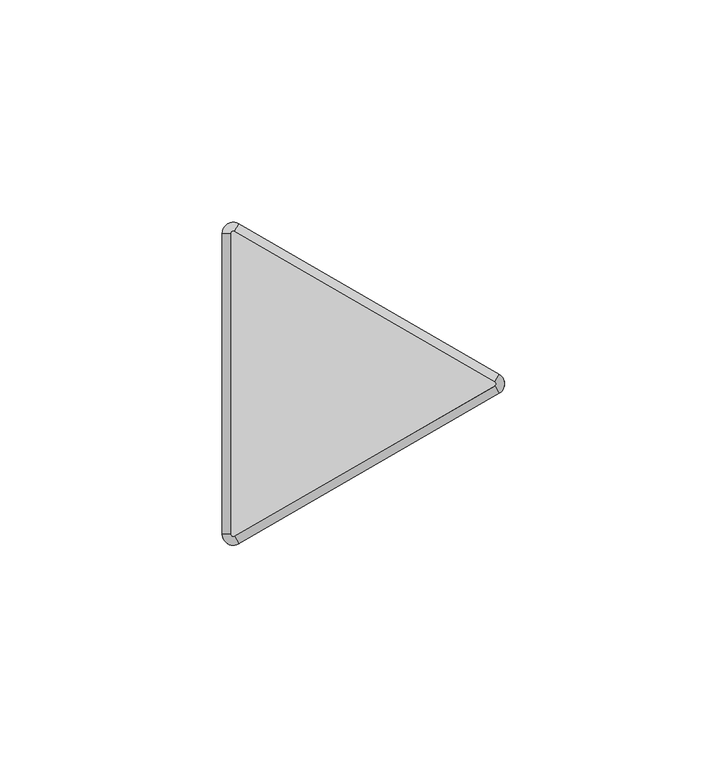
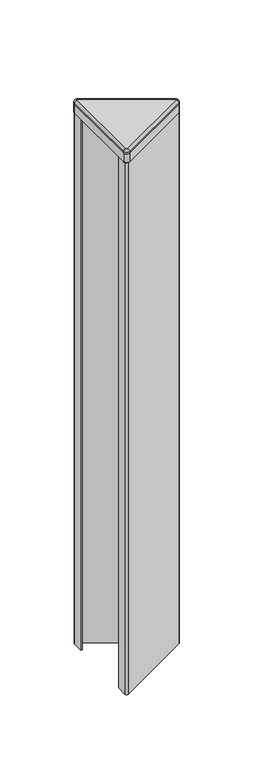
"""IFC4 building model written with IfcOpenShell, lengths in millimetres: furniture geometry, Steelcase - Answer Solution - Panel - 120deg Change-of-Height Trim - Thin : Y Corner - 18H for 66H App."""

from ifc_helpers import new_model, si_unit, point, frame, frame_2d, origin, place, context, project, spatial, polyline, circle_curve, ellipse_curve, trimmed, segment, composite_curve, outline, extrude, source, transform, mapped, element, save
from ifc_brep_helpers import plane_surface, cylinder_surface, revolved_surface, advanced_brep


def furniture_a55f275b(model_context):
    return source(origin(), model_context, "Body", "SolidModel", [
        advanced_brep(
        [(-10.518645, -37.3335529, 1680.8628978), (-14.2052101, -35.2051135, 1680.8628978), (-14.2052101, -35.2051135, 1679.9164663), (-10.518645, -37.3335529, 1679.9164663), (-11.46175, -35.7000471, 1682.75), (-12.319, -35.2051135, 1682.75), (-11.46175, -35.7000471, 1679.9164663), (-12.319, -35.2051135, 1679.9164663), (48.0429908, -3.5229767, 1679.9164663), (48.0429908, -3.5229767, 1680.8628978), (47.0998858, -1.8894709, 1682.75), (47.0998858, -1.8894709, 1679.9164663), (48.0429908, 0.733902, 1680.8628978), (48.0429908, 0.733902, 1679.9164663), (47.0998858, -0.8996038, 1682.75), (47.0998858, -0.8996038, 1679.9164663), (-10.518645, 34.5444782, 1679.9164663), (-14.2052101, 32.4160388, 1679.9164663), (-11.46175, 32.9109723, 1679.9164663), (-12.319, 32.4160388, 1679.9164663), (-10.518645, 34.5444782, 1680.8628978), (-11.46175, 32.9109723, 1682.75), (-14.2052101, 32.4160388, 1680.8628978), (-12.319, 32.4160388, 1682.75)],
        [
            (0, 1, circle_curve(frame((-11.7475, -35.2051135, 1680.8628978), z_axis=(0.0, 0.0, -1.0), x_axis=(-1.0, 0.0, 0.0)), 2.4577101)),
            (1, 2),
            (2, 3, circle_curve(frame((-11.7475, -35.2051135, 1679.9164663), z_axis=(0.0, 0.0, 1.0), x_axis=(-1.0, 0.0, 0.0)), 2.4577101)),
            (3, 0),
            (4, 5, circle_curve(frame((-11.7475, -35.2051135, 1682.75), z_axis=(0.0, 0.0, -1.0), x_axis=(-1.0, 0.0, 0.0)), 0.5715)),
            (5, 1, circle_curve(frame((-12.3181076, -35.2051135, 1680.8628978), z_axis=(0.0, -1.0, 0.0), x_axis=(1.0, 0.0, 0.0)), 1.8871024)),
            (0, 4, circle_curve(frame((-11.4621962, -35.6992743, 1680.8628978), z_axis=(-0.8660254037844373, -0.5000000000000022, 0.0), x_axis=(-0.5000000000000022, 0.8660254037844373, 0.0)), 1.8871024)),
            (6, 7, circle_curve(frame((-11.7475, -35.2051135, 1679.9164663), z_axis=(0.0, 0.0, -1.0), x_axis=(-1.0, 0.0, 0.0)), 0.5715)),
            (7, 5),
            (4, 6),
            (3, 8),
            (8, 9),
            (9, 0),
            (9, 10, circle_curve(frame((47.0994396, -1.8886981, 1680.8628978), z_axis=(-0.8660254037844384, -0.5000000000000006, 0.0), x_axis=(-0.5000000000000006, 0.8660254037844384, 0.0)), 1.8871024)),
            (10, 4),
            (10, 11),
            (11, 6),
            (12, 9, circle_curve(frame((46.8141358, -1.3945374, 1680.8628978), z_axis=(0.0, 0.0, -1.0), x_axis=(0.4999999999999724, -0.8660254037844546, 0.0)), 2.4577101)),
            (8, 13, circle_curve(frame((46.8141358, -1.3945374, 1679.9164663), z_axis=(0.0, 0.0, 1.0), x_axis=(0.4999999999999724, -0.8660254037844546, 0.0)), 2.4577101)),
            (13, 12),
            (14, 10, circle_curve(frame((46.8141358, -1.3945374, 1682.75), z_axis=(0.0, 0.0, -1.0), x_axis=(0.4999999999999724, -0.8660254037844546, 0.0)), 0.5715)),
            (12, 14, circle_curve(frame((47.0994396, -0.9003766, 1680.8628978), z_axis=(0.8660254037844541, -0.49999999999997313, 0.0), x_axis=(-0.49999999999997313, -0.8660254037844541, 0.0)), 1.8871024)),
            (15, 11, circle_curve(frame((46.8141358, -1.3945374, 1679.9164663), z_axis=(0.0, 0.0, -1.0), x_axis=(0.4999999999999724, -0.8660254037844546, 0.0)), 0.5715)),
            (14, 15),
            (16, 13),
            (2, 17),
            (17, 16, circle_curve(frame((-11.7475, 32.4160388, 1679.9164663), z_axis=(0.0, 0.0, -1.0), x_axis=(0.500000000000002, 0.8660254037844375, 0.0)), 2.4577101)),
            (15, 18),
            (18, 19, circle_curve(frame((-11.7475, 32.4160388, 1679.9164663), z_axis=(0.0, 0.0, 1.0), x_axis=(0.500000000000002, 0.8660254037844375, 0.0)), 0.5715)),
            (19, 7),
            (16, 20),
            (20, 12),
            (20, 21, circle_curve(frame((-11.4621962, 32.9101995, 1680.8628978), z_axis=(0.8660254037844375, -0.5000000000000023, 0.0), x_axis=(-0.5000000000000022, -0.8660254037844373, 0.0)), 1.8871024)),
            (21, 14),
            (21, 18),
            (22, 20, circle_curve(frame((-11.7475, 32.4160388, 1680.8628978), z_axis=(0.0, 0.0, -1.0), x_axis=(0.500000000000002, 0.8660254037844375, 0.0)), 2.4577101)),
            (17, 22),
            (23, 21, circle_curve(frame((-11.7475, 32.4160388, 1682.75), z_axis=(0.0, 0.0, -1.0), x_axis=(0.500000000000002, 0.8660254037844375, 0.0)), 0.5715)),
            (22, 23, circle_curve(frame((-12.3181076, 32.4160388, 1680.8628978), z_axis=(0.0, 1.0, 0.0), x_axis=(1.0, 0.0, 0.0)), 1.8871024)),
            (23, 19),
            (1, 22),
            (5, 23),
        ],
        [
            cylinder_surface(frame((-11.7475, -35.2051135, 0.0), z_axis=(0.0, 0.0, 1.0), x_axis=(-1.0, 0.0, 0.0)), 2.4577101),
            revolved_surface(trimmed(ellipse_curve(frame((-12.3181076, -35.2051135, 1680.8628978), z_axis=(0.0, 1.0, 0.0), x_axis=(1.0, 0.0, 0.0)), 1.8871024, 1.8871024), [point((-14.2052101, -35.2051135, 1680.8628978))], [point((-12.319, -35.2051135, 1682.75))], True, "CARTESIAN"), (-11.7475, -35.2051135, 0.0), (0.0, 0.0, 1.0)),
            revolved_surface(polyline([(-12.319, -35.2051135, 1682.75), (-12.319, -35.2051135, 1679.9164663)]), (-11.7475, -35.2051135, 0.0), (0.0, 0.0, 1.0)),
            plane_surface(frame((-10.518645, -37.3335529, 1679.9164663), z_axis=(0.5000000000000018, -0.8660254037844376, 0.0), x_axis=(0.8660254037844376, 0.5000000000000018, 0.0))),
            cylinder_surface(frame((-11.4621962, -35.6992743, 1680.8628978), z_axis=(-0.8660254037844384, -0.5000000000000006, 0.0), x_axis=(-0.5000000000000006, 0.8660254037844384, 0.0)), 1.8871024),
            plane_surface(frame((-11.46175, -35.7000471, 1682.75), z_axis=(-0.4999999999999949, 0.8660254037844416, 0.0), x_axis=(0.8660254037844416, 0.4999999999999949, 0.0))),
            cylinder_surface(frame((46.8141358, -1.3945374, 0.0), z_axis=(0.0, 0.0, 1.0), x_axis=(0.4999999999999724, -0.8660254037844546, 0.0)), 2.4577101),
            revolved_surface(trimmed(ellipse_curve(frame((47.0994396, -1.8886981, 1680.8628978), z_axis=(-0.8660254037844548, -0.499999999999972, 0.0), x_axis=(-0.499999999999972, 0.8660254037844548, 0.0)), 1.8871024, 1.8871024), [point((48.0429908, -3.5229767, 1680.8628978))], [point((47.0998858, -1.8894709, 1682.75))], True, "CARTESIAN"), (46.8141358, -1.3945374, 0.0), (0.0, 0.0, 1.0)),
            revolved_surface(polyline([(47.09988579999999, -1.8894709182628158, 1682.75), (47.09988579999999, -1.8894709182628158, 1679.9164663)]), (46.8141358, -1.3945374, 0.0), (0.0, 0.0, 1.0)),
            plane_surface(frame((47.0998858, -0.8996038, 1679.9164663), z_axis=(0.0, 0.0, -1.0), x_axis=(-0.8660254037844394, 0.4999999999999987, 0.0))),
            plane_surface(frame((48.0429908, 0.733902, 1679.9164663), z_axis=(0.5000000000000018, 0.8660254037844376, 0.0), x_axis=(-0.8660254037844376, 0.5000000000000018, 0.0))),
            cylinder_surface(frame((47.0994396, -0.9003766, 1680.8628978), z_axis=(0.8660254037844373, -0.5000000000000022, 0.0), x_axis=(-0.5000000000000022, -0.8660254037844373, 0.0)), 1.8871024),
            plane_surface(frame((47.0998858, -0.8996038, 1682.75), z_axis=(-0.4999999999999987, -0.8660254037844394, 0.0), x_axis=(-0.8660254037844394, 0.4999999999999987, 0.0))),
            cylinder_surface(frame((-11.7475, 32.4160388, 0.0), z_axis=(0.0, 0.0, 1.0), x_axis=(0.500000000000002, 0.8660254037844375, 0.0)), 2.4577101),
            revolved_surface(trimmed(ellipse_curve(frame((-11.4621962, 32.9101995, 1680.8628978), z_axis=(0.866025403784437, -0.5000000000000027, 0.0), x_axis=(-0.5000000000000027, -0.866025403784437, 0.0)), 1.8871024, 1.8871024), [point((-10.518645, 34.5444782, 1680.8628978))], [point((-11.46175, 32.9109723, 1682.75))], True, "CARTESIAN"), (-11.7475, 32.4160388, 0.0), (0.0, 0.0, 1.0)),
            revolved_surface(polyline([(-11.461749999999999, 32.91097231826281, 1682.75), (-11.461749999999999, 32.91097231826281, 1679.9164663)]), (-11.7475, 32.4160388, 0.0), (0.0, 0.0, 1.0)),
            plane_surface(frame((-14.2052101, 32.4160388, 1679.9164663), z_axis=(-1.0, 0.0, 0.0), x_axis=(0.0, -1.0, 0.0))),
            cylinder_surface(frame((-12.3181076, 32.4160388, 1680.8628978), z_axis=(0.0, 1.0, 0.0), x_axis=(1.0, 0.0, 0.0)), 1.8871024),
            plane_surface(frame((-12.319, 32.4160388, 1682.75), z_axis=(1.0, 0.0, 0.0), x_axis=(0.0, -1.0, 0.0))),
        ],
        [
            (0, [[1, 2, 3, 4]]),
            (1, [[5, 6, -1, 7]]),
            (2, [[8, 9, -5, 10]]),
            (3, [[-4, 11, 12, 13]]),
            (4, [[-7, -13, 14, 15]]),
            (5, [[-10, -15, 16, 17]]),
            (6, [[18, -12, 19, 20]]),
            (7, [[21, -14, -18, 22]]),
            (8, [[23, -16, -21, 24]]),
            (9, [[25, -19, -11, -3, 26, 27], [-8, -17, -23, 28, 29, 30]]),
            (10, [[-20, -25, 31, 32]]),
            (11, [[-22, -32, 33, 34]]),
            (12, [[-24, -34, 35, -28]]),
            (13, [[36, -31, -27, 37]]),
            (14, [[38, -33, -36, 39]]),
            (15, [[-29, -35, -38, 40]]),
            (16, [[-37, -26, -2, 41]]),
            (17, [[-39, -41, -6, 42]]),
            (18, [[-40, -42, -9, -30]]),
        ],
    ),
        extrude(outline(composite_curve([segment(trimmed(circle_curve(frame_2d((47.9522001, -1.3945374)), 1.2978651), [point((48.6011327, -0.2705532))], [point((48.6011327, -2.5185215))], False, "CARTESIAN"), True, "CONTINUOUS"), segment(polyline([(48.6011327, -2.5185215), (-11.6879343, -37.3264306)]), True, "CONTINUOUS"), segment(trimmed(circle_curve(frame_2d((-12.3300896, -36.2141852)), 1.2843104), [point((-11.6879343, -37.3264306))], [point((-13.6144, -36.2141852))], False, "CARTESIAN"), True, "CONTINUOUS"), segment(polyline([(-13.6144, -36.2141852), (-13.6144, -27.3303775), (-12.7, -27.3303775), (-12.7, -36.8548888), (48.7191304, -1.3945374), (-12.7, 34.0658141), (-12.7, 24.5413027), (-13.6144, 24.5413027), (-13.6144, 33.4106259)]), True, "CONTINUOUS"), segment(trimmed(circle_curve(frame_2d((-12.3217269, 33.4106259)), 1.2926731), [point((-13.6144, 33.4106259))], [point((-11.6753904, 34.5301136))], False, "CARTESIAN"), True, "CONTINUOUS"), segment(polyline([(-11.6753904, 34.5301136), (48.6011327, -0.2705532)]), True, "CONTINUOUS")], self_intersect=False)), frame((0.0, 0.0, 1225.55), z_axis=(0.0, 0.0, 1.0), x_axis=(1.0, 0.0, 0.0)), (0.0, 0.0, 1.0), 447.04),
        extrude(outline(composite_curve([segment(trimmed(circle_curve(frame_2d((46.8261011, -1.3945374)), 0.5655173), [point((47.1088598, -0.904785))], [point((47.1088598, -1.8842897))], False, "CARTESIAN"), True, "CONTINUOUS"), segment(polyline([(47.1088598, -1.8842897), (-11.4505119, -35.6935587)]), True, "CONTINUOUS"), segment(trimmed(circle_curve(frame_2d((-11.7400079, -35.1921369)), 0.5789921), [point((-11.4505119, -35.6935587))], [point((-12.319, -35.1921369))], False, "CARTESIAN"), True, "CONTINUOUS"), segment(polyline([(-12.319, -35.1921369), (-12.319, 32.3985888)]), True, "CONTINUOUS"), segment(trimmed(circle_curve(frame_2d((-11.7374252, 32.3985888)), 0.5815748), [point((-12.319, 32.3985888))], [point((-11.4466378, 32.9022473))], False, "CARTESIAN"), True, "CONTINUOUS"), segment(polyline([(-11.4466378, 32.9022473), (47.1088598, -0.904785)]), True, "CONTINUOUS")], self_intersect=False)), frame((0.0, 0.0, 1679.9164663), z_axis=(0.0, 0.0, 1.0), x_axis=(1.0, 0.0, 0.0)), (0.0, 0.0, 1.0), 2.8335337),
        extrude(outline(composite_curve([segment(trimmed(circle_curve(frame_2d((46.8140443, -1.3945374)), 2.4577558), [point((48.0429222, 0.7339416))], [point((48.0429222, -3.5230163))], False, "CARTESIAN"), True, "CONTINUOUS"), segment(polyline([(48.0429222, -3.5230163), (-10.518058, -37.333214)]), True, "CONTINUOUS"), segment(trimmed(circle_curve(frame_2d((-11.7471087, -35.2044357)), 2.4581014), [point((-10.518058, -37.333214))], [point((-14.2052101, -35.2044357))], False, "CARTESIAN"), True, "CONTINUOUS"), segment(polyline([(-14.2052101, -35.2044357), (-14.2052101, 32.4160388)]), True, "CONTINUOUS"), segment(trimmed(circle_curve(frame_2d((-11.7475, 32.4160388)), 2.4577101), [point((-14.2052101, 32.4160388))], [point((-10.518645, 34.5444782))], False, "CARTESIAN"), True, "CONTINUOUS"), segment(polyline([(-10.518645, 34.5444782), (48.0429222, 0.7339416)]), True, "CONTINUOUS")], self_intersect=False)), frame((0.0, 0.0, 1672.59), z_axis=(0.0, 0.0, 1.0), x_axis=(1.0, 0.0, 0.0)), (0.0, 0.0, 1.0), 7.3264663),
    ])


if __name__ == "__main__":
    model = new_model("IFC4")
    model_context = context("Model", 3, world=origin())
    ifc_project = project(units=[si_unit("LENGTHUNIT", "METRE", prefix="MILLI")], contexts=[model_context])
    site = spatial("IfcSite", under=ifc_project)
    building = spatial("IfcBuilding", under=site)
    placement = place(None, origin())
    furniture_shape = furniture_a55f275b(model_context)
    element("IfcFurniture", 1, ObjectType="Steelcase - Answer Solution - Panel - 120deg Change-of-Height Trim - Thin : Y Corner - 18H for 66H App", at=placement, inside=building, context=model_context, shape_type="MappedRepresentation", body=[
        mapped(furniture_shape, transform((0.0, 0.0, 0.0), x_axis=(1.0, 0.0, 0.0), y_axis=(0.0, 1.0, 0.0), z_axis=(0.0, 0.0, 1.0))),
    ])
    save(model, "model.ifc")
